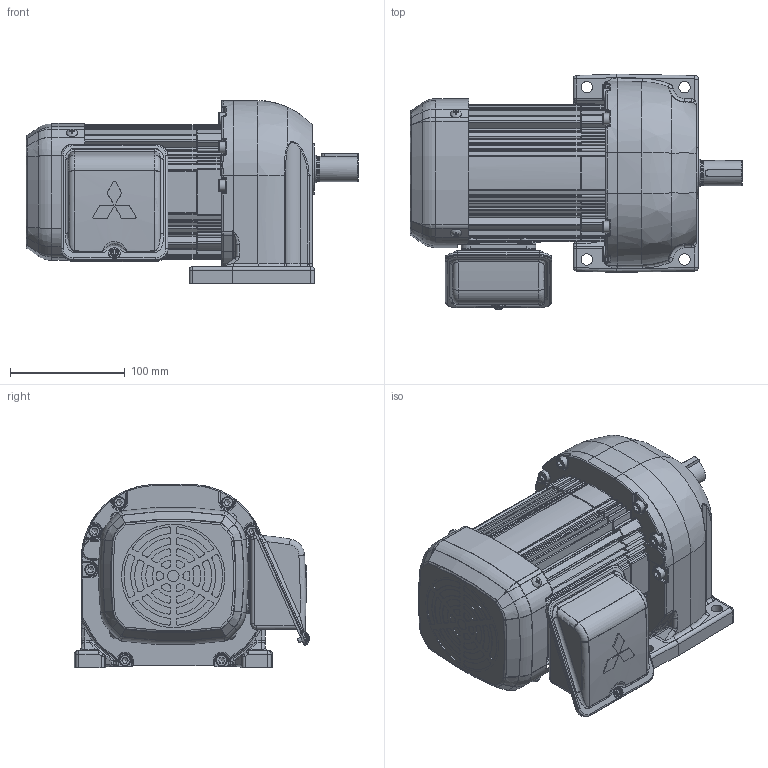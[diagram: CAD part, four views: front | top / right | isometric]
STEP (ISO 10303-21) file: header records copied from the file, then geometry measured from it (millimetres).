
FILE_DESCRIPTION( ( 'Unknown' ), '1' );
FILE_NAME( 'W:/gm/3D-WEB/GM-D/完成品/パーツ/完成品/完成品(GM-D_脚取付_0.4kW_ﾌﾞﾚｰｷ無_D).stp', 'Unknown', ( 'Unknown' ), ( 'Unknown' ), 'PSStep 11.0', 'Unknown', ' ' );
FILE_SCHEMA( ( 'AUTOMOTIVE_DESIGN { 1 0 10303 214 1 1 1 1 }' ) );
Length unit declared in the file: millimetre
Products named in the file (2): P164437_牒埳偷(D22)
Bounding box: 289 x 205.09 x 159.96 mm (x, y, z)
Volume: 2896825.1 mm3; surface area: 458520.4 mm2
Topology: 5 solids, 34 shells, 2628 faces, 6583 edges, 4056 vertices
Faces by surface type: cylinder 1058, plane 907, torus 334, bspline 181, sphere 81, cone 67
Full cylindrical faces by diameter (mm): 3.3 x4, 3.8 x6, 4 x4, 4.134 x4, 4.5 x8, 4.6 x4, 4.8 x1, 4.917 x6, 5.6 x1, 5.8 x4, 6 x12, 6.6 x8, 6.8 x1, 7 x13, 8 x2, 8.2 x1, 8.5 x2, 9.3 x4, 10 x14, 14.5 x1, 15 x1, 15.1 x1, 16 x2, 19.5 x1, 20 x1, 21.7 x1, 22 x1, 23.7 x1, 24 x1, 24.1 x1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
Entity records: 120303 total; most frequent: CARTESIAN_POINT 38078, DIRECTION 13381, ORIENTED_EDGE 12348, EDGE_CURVE 6174, AXIS2_PLACEMENT_3D 5383, VERTEX_POINT 3934, EDGE_LOOP 2993, CIRCLE 2873
